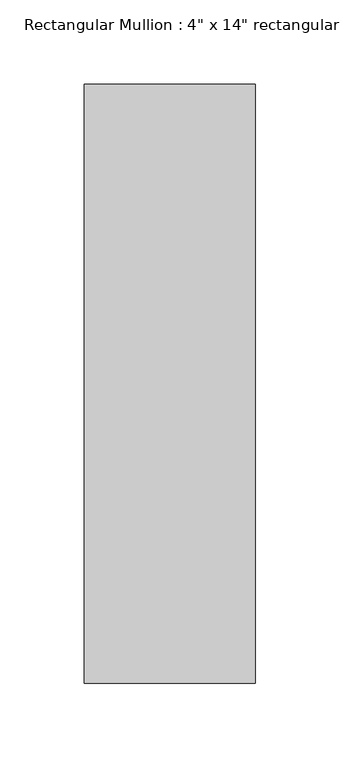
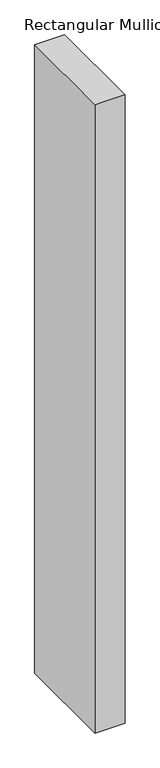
"""IFC4 building model written with IfcOpenShell, lengths in millimetres: member geometry."""

import ifcopenshell
import ifcopenshell.guid

model = None  # the IFC model being written
_history = None  # IfcOwnerHistory: only IFC2X3 demands one
_inside = {}  # id of a spatial element -> (the spatial element, [elements in it])
_under = {}  # id of a project, library or spatial element -> (it, [spatial elements below it])
_declared = {}  # id of a project -> (the project, [libraries it declares])
_typed = {}  # id of a type object -> (the type object, [elements of that type])
_made_of = {}  # id of a material, layer set ... -> (it, [elements and type objects made of it])


def new_model(schema):
    """Start an empty IFC model of exactly this schema.

    Asked for "IFC4X3", IfcOpenShell would pick the latest addendum, in which some entities
    have other attributes; the version numbers below select the first issue.
    IFC2X3 requires an IfcOwnerHistory on every rooted entity: one is made here for all.
    """
    global model, _history
    if schema == "IFC4X3":
        model = ifcopenshell.file(schema_version=(4, 3, 0, 0))
    else:
        model = ifcopenshell.file(schema=schema)
    _inside.clear()
    _under.clear()
    _declared.clear()
    _typed.clear()
    _made_of.clear()
    _history = None
    if model.schema == "IFC2X3":
        org = make("IfcOrganization", Name="unknown")
        user = make(
            "IfcPersonAndOrganization",
            ThePerson=make("IfcPerson", FamilyName="unknown"),
            TheOrganization=org,
        )
        app = make(
            "IfcApplication",
            ApplicationDeveloper=org,
            Version="unknown",
            ApplicationFullName="unknown",
            ApplicationIdentifier="unknown",
        )
        _history = make(
            "IfcOwnerHistory",
            OwningUser=user,
            OwningApplication=app,
            ChangeAction="ADDED",
            CreationDate=0,
        )
    return model


def make(cls, **values):
    """One entity of the class cls with the attributes given. An attribute that is None is left unset."""
    return model.create_entity(
        cls, **{name: value for name, value in values.items() if value is not None}
    )


def rooted(cls, **values):
    """An entity with a GlobalId (a new one), such as an element, a storey or a relation."""
    return make(cls, GlobalId=ifcopenshell.guid.new(), OwnerHistory=_history, **values)


def si_unit(unit_type, name, prefix=None):
    """IfcSIUnit, for example si_unit("LENGTHUNIT", "METRE", prefix="MILLI")."""
    return make("IfcSIUnit", UnitType=unit_type, Prefix=prefix, Name=name)


def assignment(units):
    """IfcUnitAssignment: the units of a project."""
    return None if units is None else make("IfcUnitAssignment", Units=units)


def point(xyz):
    """IfcCartesianPoint."""
    return None if xyz is None else make("IfcCartesianPoint", Coordinates=xyz)


def direction(xyz):
    """IfcDirection."""
    return None if xyz is None else make("IfcDirection", DirectionRatios=xyz)


def frame(location, z_axis=None, x_axis=None):
    """IfcAxis2Placement3D, a coordinate frame: its origin and axes. An axis left out is left unset."""
    return make(
        "IfcAxis2Placement3D",
        Location=point(location),
        Axis=direction(z_axis),
        RefDirection=direction(x_axis),
    )


def origin():
    """The frame at (0, 0, 0) with its axes left unset."""
    return frame((0.0, 0.0, 0.0))


def place(relative_to, where):
    """IfcLocalPlacement: puts the frame where relative to a parent placement (None: the world)."""
    return make(
        "IfcLocalPlacement", PlacementRelTo=relative_to, RelativePlacement=where
    )


def context(
    kind, dimensions, precision=None, world=None, true_north=None, identifier=None
):
    """IfcGeometricRepresentationContext, for example the 3D "Model" context."""
    return make(
        "IfcGeometricRepresentationContext",
        ContextIdentifier=identifier,
        ContextType=kind,
        CoordinateSpaceDimension=dimensions,
        Precision=precision,
        WorldCoordinateSystem=world,
        TrueNorth=true_north,
    )


def project(units=None, contexts=None):
    """IfcProject with its units and contexts."""
    return rooted(
        "IfcProject",
        Name="project",
        RepresentationContexts=contexts,
        UnitsInContext=assignment(units),
    )


def spatial(cls, under=None, at=None, **own):
    """A site, building, storey or space (cls), placed at a placement, below another one or the project."""
    s = rooted(cls, ObjectPlacement=at, **own)
    if under is not None:
        _under.setdefault(under.id(), (under, []))[1].append(s)
    return s


def polyline(points):
    """IfcPolyline through the points."""
    return make("IfcPolyline", Points=[point(p) for p in points])


def outline(outer, holes=None, kind="AREA"):
    """IfcArbitraryClosedProfileDef: a profile drawn as a closed curve; with holes, ...WithVoids."""
    if holes is None:
        return make("IfcArbitraryClosedProfileDef", ProfileType=kind, OuterCurve=outer)
    return make(
        "IfcArbitraryProfileDefWithVoids",
        ProfileType=kind,
        OuterCurve=outer,
        InnerCurves=holes,
    )


def extrude(swept, where, along, depth):
    """IfcExtrudedAreaSolid: the profile swept, set in the frame where, extruded along a direction by depth."""
    return make(
        "IfcExtrudedAreaSolid",
        SweptArea=swept,
        Position=where,
        ExtrudedDirection=direction(along),
        Depth=depth,
    )


def shape(context_of_items, identifier, shape_type, items):
    """IfcShapeRepresentation: the items that make up one representation, for example the "Body"."""
    return make(
        "IfcShapeRepresentation",
        ContextOfItems=context_of_items,
        RepresentationIdentifier=identifier,
        RepresentationType=shape_type,
        Items=items,
    )


def source(mapping_origin, context_of_items, identifier, shape_type, items):
    """IfcRepresentationMap: a shape defined once, which mapped items show again and again."""
    return make(
        "IfcRepresentationMap",
        MappingOrigin=mapping_origin,
        MappedRepresentation=shape(context_of_items, identifier, shape_type, items),
    )


def transform(
    local_origin,
    x_axis=None,
    y_axis=None,
    z_axis=None,
    scale=None,
    scale2=None,
    scale3=None,
    uniform=True,
):
    """IfcCartesianTransformationOperator3D, or its non-uniform kind. x_axis, y_axis, z_axis: its Axis1, 2, 3."""
    if uniform:
        return make(
            "IfcCartesianTransformationOperator3D",
            Axis1=direction(x_axis),
            Axis2=direction(y_axis),
            LocalOrigin=point(local_origin),
            Scale=scale,
            Axis3=direction(z_axis),
        )
    return make(
        "IfcCartesianTransformationOperator3DnonUniform",
        Axis1=direction(x_axis),
        Axis2=direction(y_axis),
        LocalOrigin=point(local_origin),
        Scale=scale,
        Axis3=direction(z_axis),
        Scale2=scale2,
        Scale3=scale3,
    )


def mapped(mapping_source, mapping_target):
    """IfcMappedItem: shows the shape of a source again, moved by a transform."""
    return make(
        "IfcMappedItem", MappingSource=mapping_source, MappingTarget=mapping_target
    )


def made_of(thing, what):
    """Note that an element or type object is made of a material, layer set ...; save() writes the relation."""
    if what is not None:
        _made_of.setdefault(what.id(), (what, []))[1].append(thing)
    return thing


def element(
    cls,
    number,
    at=None,
    inside=None,
    cuts=None,
    type_object=None,
    material=None,
    context=None,
    identifier="Body",
    shape_type=None,
    held_by="IfcProductDefinitionShape",
    body=None,
    shapes=None,
    **own,
):
    """One element of the class cls, such as IfcWall. Its Tag is "e" and its number.

    at: its placement. inside: the storey or other place that contains it. cuts: it is an
    opening in that element (IfcRelVoidsElement). A single representation is given by context,
    identifier, shape_type and body (its items); several are given by shapes. held_by: the class
    of the entity that holds the representations. save() writes the other relations.
    """
    e = rooted(cls, Tag="e%d" % number, ObjectPlacement=at, **own)
    if body is not None:
        shapes = [shape(context, identifier, shape_type, body)]
    if shapes is not None:
        e.Representation = make(held_by, Representations=shapes)
    if inside is not None:
        _inside.setdefault(inside.id(), (inside, []))[1].append(e)
    if cuts is not None:
        rooted(
            "IfcRelVoidsElement", RelatingBuildingElement=cuts, RelatedOpeningElement=e
        )
    if type_object is not None:
        _typed.setdefault(type_object.id(), (type_object, []))[1].append(e)
    return made_of(e, material)


def aggregate(whole, parts):
    """IfcRelAggregates: a whole, such as a stair, and the parts it consists of."""
    return rooted("IfcRelAggregates", RelatingObject=whole, RelatedObjects=parts)


def save(model, path):
    """Write the relations noted so far, then the file.

    IfcRelAggregates (storeys below a building ...), IfcRelContainedInSpatialStructure (elements
    in a storey), IfcRelDefinesByType, IfcRelAssociatesMaterial and IfcRelDeclares: one each for
    every whole, place, type object, material and project.
    """
    for whole, parts in _under.values():
        aggregate(whole, parts)
    for where, things in _inside.values():
        rooted(
            "IfcRelContainedInSpatialStructure",
            RelatedElements=things,
            RelatingStructure=where,
        )
    for kind, things in _typed.values():
        rooted("IfcRelDefinesByType", RelatedObjects=things, RelatingType=kind)
    for what, things in _made_of.values():
        rooted("IfcRelAssociatesMaterial", RelatedObjects=things, RelatingMaterial=what)
    for by, libraries in _declared.values():
        rooted("IfcRelDeclares", RelatingContext=by, RelatedDefinitions=libraries)
    model.write(path)


def member_12dde1c7(model_context):
    return source(origin(), model_context, "Body", "SweptSolid", [
        extrude(outline(polyline([(50.8, 12.7), (50.8, -342.9), (-50.8, -342.9), (-50.8, 12.7), (50.8, 12.7)])), frame((0.0, 0.0, -2258.0403385), z_axis=(0.0, 0.0, 1.0), x_axis=(1.0, 0.0, 0.0)), (0.0, 0.0, 1.0), 2258.0403385),
    ])


if __name__ == "__main__":
    model = new_model("IFC4")
    model_context = context("Model", 3, world=origin())
    ifc_project = project(units=[si_unit("LENGTHUNIT", "METRE", prefix="MILLI")], contexts=[model_context])
    site = spatial("IfcSite", under=ifc_project)
    building = spatial("IfcBuilding", under=site)
    placement = place(None, origin())
    member_shape = member_12dde1c7(model_context)
    element("IfcMember", 1, ObjectType="Rectangular Mullion : 4\" x 14\" rectangular", at=placement, inside=building, context=model_context, shape_type="MappedRepresentation", body=[
        mapped(member_shape, transform((0.0, 0.0, 0.0), x_axis=(1.0, 0.0, 0.0), y_axis=(0.0, 1.0, 0.0), z_axis=(0.0, 0.0, 1.0))),
    ])
    save(model, "model.ifc")
